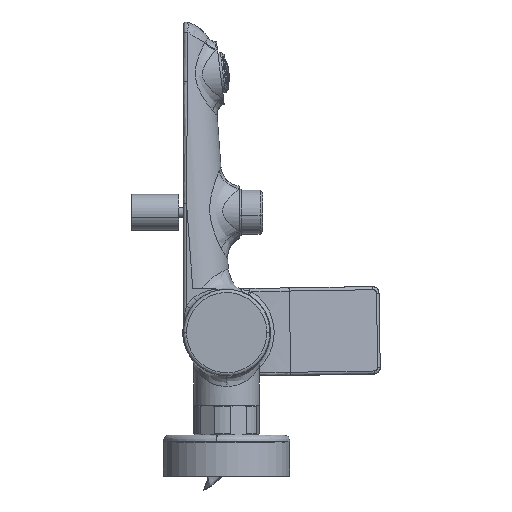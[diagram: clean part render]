
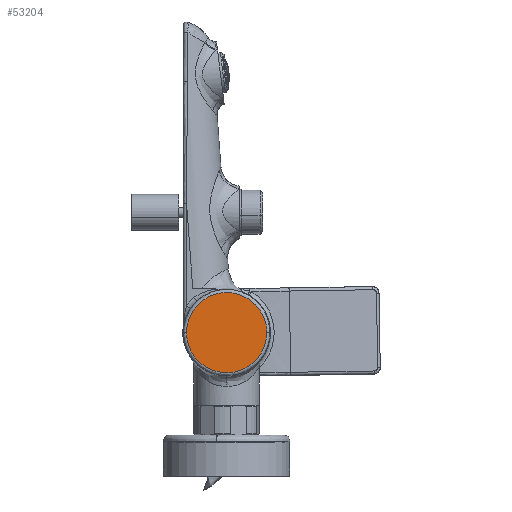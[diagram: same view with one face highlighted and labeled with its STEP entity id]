
A CAD part, left-side view. The second image highlights one B-rep face of the part: STEP entity #53204.
In plain terms, the highlighted planar face has unit normal (-1, 0, 0).
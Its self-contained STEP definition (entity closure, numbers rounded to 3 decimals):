
#5029 =( BOUNDED_CURVE ( )  B_SPLINE_CURVE ( 3, ( #26474, #95541, #25186, #77606 ),
 .UNSPECIFIED., .F., .F. ) 
 B_SPLINE_CURVE_WITH_KNOTS ( ( 4, 4 ),
 ( 0., 1. ),
 .UNSPECIFIED. ) 
 CURVE ( )  GEOMETRIC_REPRESENTATION_ITEM ( )  RATIONAL_B_SPLINE_CURVE ( ( 1., 0.805, 0.805, 1. ) ) 
 REPRESENTATION_ITEM ( '' )  );
#5714 = FACE_OUTER_BOUND ( 'NONE', #114266, .T. ) ;
#9756 = ORIENTED_EDGE ( 'NONE', *, *, #99213, .F. ) ;
#9775 = CARTESIAN_POINT ( 'NONE',  ( -166.896, 24.556, 226.251 ) ) ;
#10419 = CARTESIAN_POINT ( 'NONE',  ( -166.896, 5.556, 207.251 ) ) ;
#20753 = ORIENTED_EDGE ( 'NONE', *, *, #106385, .F. ) ;
#23377 = CARTESIAN_POINT ( 'NONE',  ( -166.896, 5.556, 245.251 ) ) ;
#24036 = CARTESIAN_POINT ( 'NONE',  ( -166.896, 24.556, 237.381 ) ) ;
#24991 = PLANE ( 'NONE',  #41698 ) ;
#25186 = CARTESIAN_POINT ( 'NONE',  ( -166.896, -5.574, 207.251 ) ) ;
#26474 = CARTESIAN_POINT ( 'NONE',  ( -166.896, -13.444, 226.251 ) ) ;
#28447 = CARTESIAN_POINT ( 'NONE',  ( -166.896, -5.574, 245.251 ) ) ;
#29023 = CARTESIAN_POINT ( 'NONE',  ( -166.896, 24.556, 215.121 ) ) ;
#39185 = EDGE_CURVE ( 'NONE', #59103, #120656, #75704, .T. ) ;
#41698 = AXIS2_PLACEMENT_3D ( 'NONE', #95995, #117888, #107257 ) ;
#45827 = CARTESIAN_POINT ( 'NONE',  ( -166.896, -13.444, 226.251 ) ) ;
#46384 = CARTESIAN_POINT ( 'NONE',  ( -166.896, 24.556, 226.251 ) ) ;
#48860 = VERTEX_POINT ( 'NONE', #58233 ) ;
#53204 = ADVANCED_FACE ( 'NONE', ( #5714 ), #24991, .F. ) ;
#58233 = CARTESIAN_POINT ( 'NONE',  ( -166.896, 5.556, 207.251 ) ) ;
#58990 = CARTESIAN_POINT ( 'NONE',  ( -166.896, -13.444, 237.381 ) ) ;
#59103 = VERTEX_POINT ( 'NONE', #78549 ) ;
#60129 = CARTESIAN_POINT ( 'NONE',  ( -166.896, 16.686, 245.251 ) ) ;
#68299 = CARTESIAN_POINT ( 'NONE',  ( -166.896, -13.444, 226.251 ) ) ;
#75704 =( BOUNDED_CURVE ( )  B_SPLINE_CURVE ( 3, ( #98177, #28447, #58990, #68299 ),
 .UNSPECIFIED., .F., .F. ) 
 B_SPLINE_CURVE_WITH_KNOTS ( ( 4, 4 ),
 ( 0., 1. ),
 .UNSPECIFIED. ) 
 CURVE ( )  GEOMETRIC_REPRESENTATION_ITEM ( )  RATIONAL_B_SPLINE_CURVE ( ( 1., 0.805, 0.805, 1. ) ) 
 REPRESENTATION_ITEM ( '' )  );
#77536 = EDGE_CURVE ( 'NONE', #120656, #48860, #5029, .T. ) ;
#77606 = CARTESIAN_POINT ( 'NONE',  ( -166.896, 5.556, 207.251 ) ) ;
#77908 =( BOUNDED_CURVE ( )  B_SPLINE_CURVE ( 3, ( #10419, #80164, #29023, #9775 ),
 .UNSPECIFIED., .F., .F. ) 
 B_SPLINE_CURVE_WITH_KNOTS ( ( 4, 4 ),
 ( 0., 0.5 ),
 .UNSPECIFIED. ) 
 CURVE ( )  GEOMETRIC_REPRESENTATION_ITEM ( )  RATIONAL_B_SPLINE_CURVE ( ( 1., 0.805, 0.805, 1. ) ) 
 REPRESENTATION_ITEM ( '' )  );
#78549 = CARTESIAN_POINT ( 'NONE',  ( -166.896, 5.556, 245.251 ) ) ;
#78672 =( BOUNDED_CURVE ( )  B_SPLINE_CURVE ( 3, ( #101237, #24036, #60129, #23377 ),
 .UNSPECIFIED., .F., .F. ) 
 B_SPLINE_CURVE_WITH_KNOTS ( ( 4, 4 ),
 ( 0.5, 1. ),
 .UNSPECIFIED. ) 
 CURVE ( )  GEOMETRIC_REPRESENTATION_ITEM ( )  RATIONAL_B_SPLINE_CURVE ( ( 1., 0.805, 0.805, 1. ) ) 
 REPRESENTATION_ITEM ( '' )  );
#80164 = CARTESIAN_POINT ( 'NONE',  ( -166.896, 16.686, 207.251 ) ) ;
#95541 = CARTESIAN_POINT ( 'NONE',  ( -166.896, -13.444, 215.121 ) ) ;
#95675 = ORIENTED_EDGE ( 'NONE', *, *, #77536, .F. ) ;
#95995 = CARTESIAN_POINT ( 'NONE',  ( -166.896, 5.556, 226.251 ) ) ;
#98177 = CARTESIAN_POINT ( 'NONE',  ( -166.896, 5.556, 245.251 ) ) ;
#99213 = EDGE_CURVE ( 'NONE', #125912, #59103, #78672, .T. ) ;
#101237 = CARTESIAN_POINT ( 'NONE',  ( -166.896, 24.556, 226.251 ) ) ;
#106385 = EDGE_CURVE ( 'NONE', #48860, #125912, #77908, .T. ) ;
#107257 = DIRECTION ( 'NONE',  ( 0., -1., 0. ) ) ;
#114266 = EDGE_LOOP ( 'NONE', ( #95675, #119379, #9756, #20753 ) ) ;
#117888 = DIRECTION ( 'NONE',  ( 1., 0., 0. ) ) ;
#119379 = ORIENTED_EDGE ( 'NONE', *, *, #39185, .F. ) ;
#120656 = VERTEX_POINT ( 'NONE', #45827 ) ;
#125912 = VERTEX_POINT ( 'NONE', #46384 ) ;
